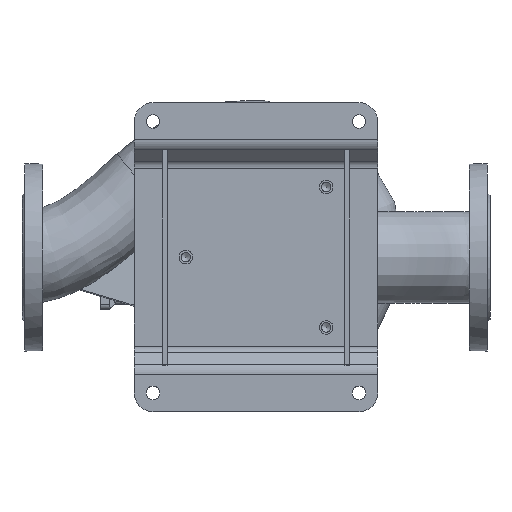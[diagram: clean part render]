
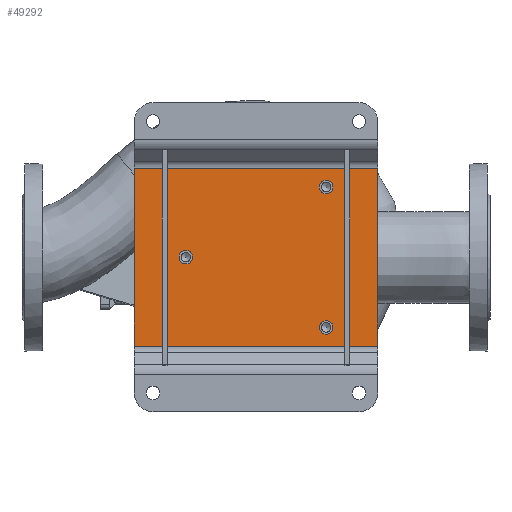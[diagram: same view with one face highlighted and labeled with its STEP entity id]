
A CAD part, top view. The second image highlights one B-rep face of the part: STEP entity #49292.
In plain terms, the highlighted planar face has unit normal (0, 0, 1) as drawn and (0, -1, 0) by its records, which use the part's own axes.
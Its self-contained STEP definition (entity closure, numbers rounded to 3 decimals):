
#34 = CARTESIAN_POINT ( 'NONE',  ( -95., -5., -130. ) ) ;
#55 = DIRECTION ( 'NONE',  ( 0., 0., -1. ) ) ;
#384 = CARTESIAN_POINT ( 'NONE',  ( -75., -5., 67.75 ) ) ;
#677 = FACE_BOUND ( 'NONE', #19063, .T. ) ;
#1222 = EDGE_LOOP ( 'NONE', ( #55020, #58301, #42440, #71690 ) ) ;
#3650 = DIRECTION ( 'NONE',  ( 0., -1., 0. ) ) ;
#7624 = AXIS2_PLACEMENT_3D ( 'NONE', #71411, #37561, #43452 ) ;
#10824 = CARTESIAN_POINT ( 'NONE',  ( -95., -5., 130. ) ) ;
#11443 = DIRECTION ( 'NONE',  ( -1., 0., 0. ) ) ;
#17600 = PLANE ( 'NONE',  #20084 ) ;
#17832 = ORIENTED_EDGE ( 'NONE', *, *, #70163, .F. ) ;
#19063 = EDGE_LOOP ( 'NONE', ( #17832 ) ) ;
#20084 = AXIS2_PLACEMENT_3D ( 'NONE', #40073, #62495, #25673 ) ;
#20425 = DIRECTION ( 'NONE',  ( 1., 0., 0. ) ) ;
#20805 = LINE ( 'NONE', #10824, #30443 ) ;
#20912 = CARTESIAN_POINT ( 'NONE',  ( 95., -5., -130. ) ) ;
#21737 = VERTEX_POINT ( 'NONE', #384 ) ;
#22554 = DIRECTION ( 'NONE',  ( 0., -1., 0. ) ) ;
#23134 = FACE_BOUND ( 'NONE', #60363, .T. ) ;
#23407 = CARTESIAN_POINT ( 'NONE',  ( 95., -5., 130. ) ) ;
#24858 = EDGE_CURVE ( 'NONE', #21737, #21737, #26727, .T. ) ;
#25673 = DIRECTION ( 'NONE',  ( 0., 0., -1. ) ) ;
#26727 = CIRCLE ( 'NONE', #32540, 7.25 ) ;
#30443 = VECTOR ( 'NONE', #60541, 1000. ) ;
#31027 = ORIENTED_EDGE ( 'NONE', *, *, #35770, .F. ) ;
#32540 = AXIS2_PLACEMENT_3D ( 'NONE', #68195, #22554, #72235 ) ;
#32564 = EDGE_LOOP ( 'NONE', ( #31027 ) ) ;
#32690 = CARTESIAN_POINT ( 'NONE',  ( 0., -5., -75. ) ) ;
#34463 = EDGE_CURVE ( 'NONE', #66055, #60299, #36623, .T. ) ;
#35696 = CARTESIAN_POINT ( 'NONE',  ( 75., -5., 67.75 ) ) ;
#35770 = EDGE_CURVE ( 'NONE', #63298, #63298, #69944, .T. ) ;
#36051 = CIRCLE ( 'NONE', #47828, 7.25 ) ;
#36623 = LINE ( 'NONE', #70843, #61632 ) ;
#37561 = DIRECTION ( 'NONE',  ( 0., -1., 0. ) ) ;
#38446 = VERTEX_POINT ( 'NONE', #20912 ) ;
#40073 = CARTESIAN_POINT ( 'NONE',  ( 0., -5., 0. ) ) ;
#42440 = ORIENTED_EDGE ( 'NONE', *, *, #52175, .F. ) ;
#43452 = DIRECTION ( 'NONE',  ( 0., 0., -1. ) ) ;
#43846 = VERTEX_POINT ( 'NONE', #66278 ) ;
#43974 = CARTESIAN_POINT ( 'NONE',  ( -95., -5., -130. ) ) ;
#45316 = LINE ( 'NONE', #34, #55920 ) ;
#47828 = AXIS2_PLACEMENT_3D ( 'NONE', #32690, #3650, #54792 ) ;
#49292 = ADVANCED_FACE ( 'NONE', ( #51108, #677, #23134, #68037 ), #17600, .T. ) ;
#50851 = CARTESIAN_POINT ( 'NONE',  ( 95., -5., 130. ) ) ;
#51108 = FACE_BOUND ( 'NONE', #32564, .T. ) ;
#51591 = LINE ( 'NONE', #50851, #70099 ) ;
#51776 = CARTESIAN_POINT ( 'NONE',  ( -95., -5., 130. ) ) ;
#52110 = VERTEX_POINT ( 'NONE', #43974 ) ;
#52175 = EDGE_CURVE ( 'NONE', #52110, #66055, #20805, .T. ) ;
#54706 = EDGE_CURVE ( 'NONE', #38446, #52110, #45316, .T. ) ;
#54792 = DIRECTION ( 'NONE',  ( 0., 0., -1. ) ) ;
#55020 = ORIENTED_EDGE ( 'NONE', *, *, #64938, .F. ) ;
#55920 = VECTOR ( 'NONE', #11443, 1000. ) ;
#58301 = ORIENTED_EDGE ( 'NONE', *, *, #34463, .F. ) ;
#60299 = VERTEX_POINT ( 'NONE', #23407 ) ;
#60363 = EDGE_LOOP ( 'NONE', ( #60805 ) ) ;
#60541 = DIRECTION ( 'NONE',  ( 0., 0., 1. ) ) ;
#60805 = ORIENTED_EDGE ( 'NONE', *, *, #24858, .F. ) ;
#61632 = VECTOR ( 'NONE', #20425, 1000. ) ;
#62495 = DIRECTION ( 'NONE',  ( 0., -1., 0. ) ) ;
#63298 = VERTEX_POINT ( 'NONE', #35696 ) ;
#64938 = EDGE_CURVE ( 'NONE', #60299, #38446, #51591, .T. ) ;
#66055 = VERTEX_POINT ( 'NONE', #51776 ) ;
#66278 = CARTESIAN_POINT ( 'NONE',  ( 0., -5., -82.25 ) ) ;
#68037 = FACE_OUTER_BOUND ( 'NONE', #1222, .T. ) ;
#68195 = CARTESIAN_POINT ( 'NONE',  ( -75., -5., 75. ) ) ;
#69944 = CIRCLE ( 'NONE', #7624, 7.25 ) ;
#70099 = VECTOR ( 'NONE', #55, 1000. ) ;
#70163 = EDGE_CURVE ( 'NONE', #43846, #43846, #36051, .T. ) ;
#70843 = CARTESIAN_POINT ( 'NONE',  ( -95., -5., 130. ) ) ;
#71411 = CARTESIAN_POINT ( 'NONE',  ( 75., -5., 75. ) ) ;
#71690 = ORIENTED_EDGE ( 'NONE', *, *, #54706, .F. ) ;
#72235 = DIRECTION ( 'NONE',  ( 0., 0., -1. ) ) ;
